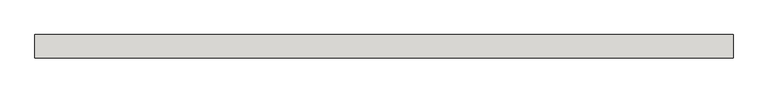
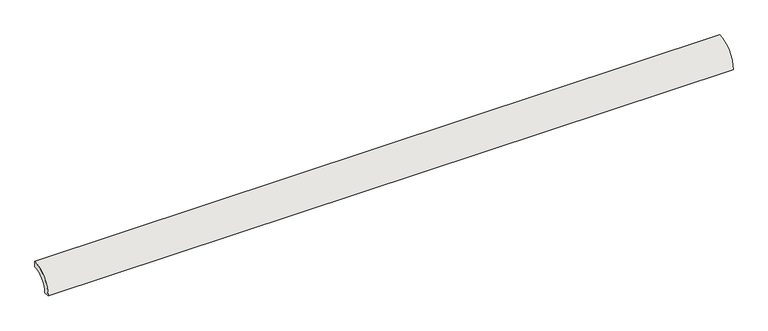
"""IFC4 building model written with IfcOpenShell, lengths in millimetres: slab geometry, ROSA GRES_183 : Pieza 183_Serena_Ocra_Anti-Slip."""

from ifc_helpers import new_model, si_unit, point, frame, frame_2d, origin, origin_2d, place, context, project, spatial, polyline, circle_curve, trimmed, segment, composite_curve, outline, extrude, source, transform, mapped, element, save


def slab_38352cfc(model_context):
    return source(origin(), model_context, "Body", "SweptSolid", [
        extrude(outline(composite_curve([segment(polyline([(0.0, 40.0), (0.0, 30.0265886)]), True, "CONTINUOUS"), segment(trimmed(circle_curve(frame_2d((-0.0044453, 0.0044453)), 30.0221435), [point((0.0, 30.0265886))], [point((-30.0265886, 0.0))], True, "CARTESIAN"), True, "CONTINUOUS"), segment(polyline([(-30.0265886, 0.0), (-40.0, 0.0)]), True, "CONTINUOUS"), segment(trimmed(circle_curve(origin_2d(), 40.0), [point((-40.0, 0.0))], [point((0.0, 40.0))], False, "CARTESIAN"), True, "CONTINUOUS")], self_intersect=False)), frame((0.0, 0.0, 0.0), z_axis=(1.0, 0.0, 0.0), x_axis=(0.0, 1.0, 0.0)), (0.0, 0.0, 1.0), 1200.5),
    ])


if __name__ == "__main__":
    model = new_model("IFC4")
    model_context = context("Model", 3, world=origin())
    ifc_project = project(units=[si_unit("LENGTHUNIT", "METRE", prefix="MILLI")], contexts=[model_context])
    site = spatial("IfcSite", under=ifc_project)
    building = spatial("IfcBuilding", under=site)
    placement = place(None, origin())
    slab_shape = slab_38352cfc(model_context)
    element("IfcSlab", 1, ObjectType="ROSA GRES_183 : Pieza 183_Serena_Ocra_Anti-Slip", at=placement, inside=building, context=model_context, shape_type="MappedRepresentation", body=[
        mapped(slab_shape, transform((0.0, 0.0, 0.0), x_axis=(1.0, 0.0, 0.0), y_axis=(0.0, 1.0, 0.0), z_axis=(0.0, 0.0, 1.0))),
    ])
    save(model, "model.ifc")
